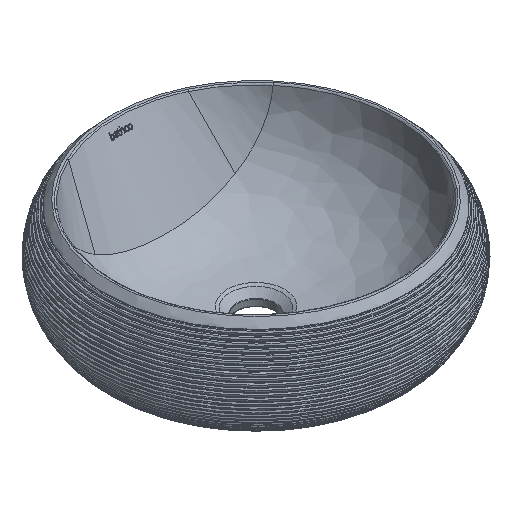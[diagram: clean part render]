
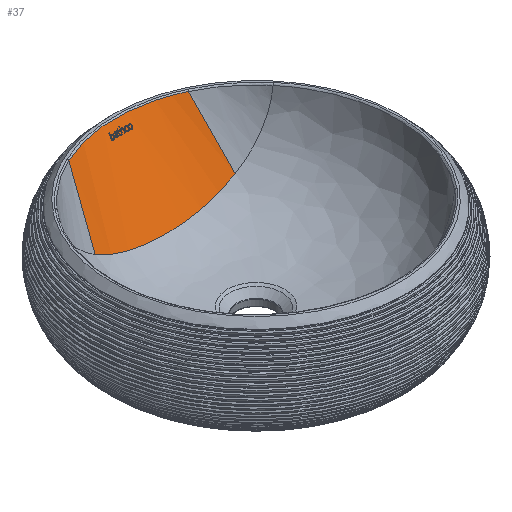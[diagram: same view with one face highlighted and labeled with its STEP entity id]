
A CAD part, isometric view. The second image highlights one B-rep face of the part: STEP entity #37.
In plain terms, the highlighted free-form (B-spline) face has degree [1, 3] with [2, 23] control points.
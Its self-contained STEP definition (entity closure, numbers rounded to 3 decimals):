
#37=ADVANCED_FACE('',(#254),#2967,.T.);
#254=FACE_OUTER_BOUND('',#471,.T.);
#471=EDGE_LOOP('',(#709,#710,#711,#712));
#709=ORIENTED_EDGE('',*,*,#1694,.F.);
#710=ORIENTED_EDGE('',*,*,#1693,.F.);
#711=ORIENTED_EDGE('',*,*,#1707,.F.);
#712=ORIENTED_EDGE('',*,*,#1719,.F.);
#1693=EDGE_CURVE('',#2680,#2681,#2180,.T.);
#1694=EDGE_CURVE('',#2681,#2702,#2181,.T.);
#1707=EDGE_CURVE('',#2703,#2680,#2192,.T.);
#1719=EDGE_CURVE('',#2702,#2703,#2545,.T.);
#2180=B_SPLINE_CURVE_WITH_KNOTS('',3,(#9135,#9136,#9137,#9138,#9139,#9140,
#9141,#9142,#9143,#9144,#9145,#9146,#9147,#9148,#9149,#9150,#9151,#9152,
#9153,#9154,#9155,#9156,#9157),.UNSPECIFIED.,.F.,.F.,(4,2,2,2,2,1,1,1,2,
2,2,2,4),(-162.977,-142.605,-122.233,-101.861,
-91.675,-86.582,-81.489,-76.396,
-71.303,-61.116,-40.744,-20.372,
0.),.UNSPECIFIED.);
#2181=B_SPLINE_CURVE_WITH_KNOTS('',1,(#9158,#9159),.UNSPECIFIED.,.F.,.F.,
(2,2),(0.,109.212),.UNSPECIFIED.);
#2192=B_SPLINE_CURVE_WITH_KNOTS('',1,(#9280,#9281),.UNSPECIFIED.,.F.,.F.,
(2,2),(-109.212,0.),.UNSPECIFIED.);
#2545=(
BOUNDED_CURVE()
B_SPLINE_CURVE(3,(#9359,#9360,#9361,#9362,#9363,#9364,#9365,#9366,#9367),
 .UNSPECIFIED.,.F.,.F.)
B_SPLINE_CURVE_WITH_KNOTS((4,1,1,1,1,1,4),(-0.468,23.028,
45.047,75.051,105.055,127.074,150.57),
 .UNSPECIFIED.)
CURVE()
GEOMETRIC_REPRESENTATION_ITEM()
RATIONAL_B_SPLINE_CURVE((1.,1.,1.,1.,1.,1.,
1.,1.,1.))
REPRESENTATION_ITEM('')
);
#2680=VERTEX_POINT('',#8924);
#2681=VERTEX_POINT('',#8925);
#2702=VERTEX_POINT('',#8946);
#2703=VERTEX_POINT('',#8947);
#2967=B_SPLINE_SURFACE_WITH_KNOTS('',1,3,((#3455,#3456,#3457,#3458,#3459,
#3460,#3461,#3462,#3463,#3464,#3465,#3466,#3467,#3468,#3469,#3470,#3471,
#3472,#3473,#3474,#3475,#3476,#3477),(#3478,#3479,#3480,#3481,#3482,#3483,
#3484,#3485,#3486,#3487,#3488,#3489,#3490,#3491,#3492,#3493,#3494,#3495,
#3496,#3497,#3498,#3499,#3500)),.UNSPECIFIED.,.F.,.F.,.F.,(2,2),(4,2,2,
2,2,1,1,1,2,2,2,2,4),(-110.934,0.),(0.,20.372,40.744,
61.116,71.303,76.396,81.489,86.582,
91.675,101.861,122.233,142.605,162.977),
 .UNSPECIFIED.);
#3455=CARTESIAN_POINT('',(22812.097,1496.328,-7716.588));
#3456=CARTESIAN_POINT('',(22817.729,1498.952,-7716.588));
#3457=CARTESIAN_POINT('',(22823.504,1501.269,-7716.588));
#3458=CARTESIAN_POINT('',(22835.272,1505.26,-7716.588));
#3459=CARTESIAN_POINT('',(22841.265,1506.935,-7716.588));
#3460=CARTESIAN_POINT('',(22853.397,1509.622,-7716.588));
#3461=CARTESIAN_POINT('',(22859.536,1510.635,-7716.588));
#3462=CARTESIAN_POINT('',(22868.801,1511.649,-7716.588));
#3463=CARTESIAN_POINT('',(22871.898,1511.903,-7716.588));
#3464=CARTESIAN_POINT('',(22876.551,1512.157,-7716.588));
#3465=CARTESIAN_POINT('',(22879.656,1512.284,-7716.588));
#3466=CARTESIAN_POINT('',(22884.315,1512.347,-7716.588));
#3467=CARTESIAN_POINT('',(22888.975,1512.284,-7716.588));
#3468=CARTESIAN_POINT('',(22892.08,1512.157,-7716.588));
#3469=CARTESIAN_POINT('',(22896.733,1511.903,-7716.588));
#3470=CARTESIAN_POINT('',(22899.83,1511.649,-7716.588));
#3471=CARTESIAN_POINT('',(22909.095,1510.635,-7716.588));
#3472=CARTESIAN_POINT('',(22915.234,1509.622,-7716.588));
#3473=CARTESIAN_POINT('',(22927.366,1506.935,-7716.588));
#3474=CARTESIAN_POINT('',(22933.359,1505.26,-7716.588));
#3475=CARTESIAN_POINT('',(22945.127,1501.269,-7716.588));
#3476=CARTESIAN_POINT('',(22950.902,1498.952,-7716.588));
#3477=CARTESIAN_POINT('',(22956.534,1496.328,-7716.588));
#3478=CARTESIAN_POINT('',(22799.577,1451.326,-7787.973));
#3479=CARTESIAN_POINT('',(22805.885,1451.326,-7791.784));
#3480=CARTESIAN_POINT('',(22812.541,1451.326,-7795.005));
#3481=CARTESIAN_POINT('',(22826.258,1451.326,-7800.391));
#3482=CARTESIAN_POINT('',(22833.319,1451.326,-7802.558));
#3483=CARTESIAN_POINT('',(22847.657,1451.326,-7805.963));
#3484=CARTESIAN_POINT('',(22854.934,1451.326,-7807.202));
#3485=CARTESIAN_POINT('',(22865.917,1451.326,-7808.433));
#3486=CARTESIAN_POINT('',(22869.59,1451.326,-7808.738));
#3487=CARTESIAN_POINT('',(22875.108,1451.326,-7809.043));
#3488=CARTESIAN_POINT('',(22878.789,1451.326,-7809.195));
#3489=CARTESIAN_POINT('',(22884.316,1451.326,-7809.271));
#3490=CARTESIAN_POINT('',(22889.842,1451.326,-7809.195));
#3491=CARTESIAN_POINT('',(22893.523,1451.326,-7809.043));
#3492=CARTESIAN_POINT('',(22899.041,1451.326,-7808.738));
#3493=CARTESIAN_POINT('',(22902.714,1451.326,-7808.433));
#3494=CARTESIAN_POINT('',(22913.697,1451.326,-7807.202));
#3495=CARTESIAN_POINT('',(22920.974,1451.326,-7805.963));
#3496=CARTESIAN_POINT('',(22935.311,1451.326,-7802.558));
#3497=CARTESIAN_POINT('',(22942.373,1451.326,-7800.391));
#3498=CARTESIAN_POINT('',(22956.09,1451.326,-7795.005));
#3499=CARTESIAN_POINT('',(22962.746,1451.326,-7791.784));
#3500=CARTESIAN_POINT('',(22969.054,1451.326,-7787.973));
#8924=CARTESIAN_POINT('',(22969.054,1451.326,-7787.973));
#8925=CARTESIAN_POINT('',(22799.577,1451.326,-7787.973));
#8946=CARTESIAN_POINT('',(22811.903,1495.629,-7717.696));
#8947=CARTESIAN_POINT('',(22956.728,1495.629,-7717.696));
#9135=CARTESIAN_POINT('',(22969.054,1451.326,-7787.973));
#9136=CARTESIAN_POINT('',(22962.746,1451.326,-7791.784));
#9137=CARTESIAN_POINT('',(22956.09,1451.326,-7795.005));
#9138=CARTESIAN_POINT('',(22942.373,1451.326,-7800.391));
#9139=CARTESIAN_POINT('',(22935.311,1451.326,-7802.558));
#9140=CARTESIAN_POINT('',(22920.974,1451.326,-7805.963));
#9141=CARTESIAN_POINT('',(22913.697,1451.326,-7807.202));
#9142=CARTESIAN_POINT('',(22902.714,1451.326,-7808.433));
#9143=CARTESIAN_POINT('',(22899.041,1451.326,-7808.738));
#9144=CARTESIAN_POINT('',(22893.523,1451.326,-7809.043));
#9145=CARTESIAN_POINT('',(22889.842,1451.326,-7809.195));
#9146=CARTESIAN_POINT('',(22884.316,1451.326,-7809.271));
#9147=CARTESIAN_POINT('',(22878.789,1451.326,-7809.195));
#9148=CARTESIAN_POINT('',(22875.108,1451.326,-7809.043));
#9149=CARTESIAN_POINT('',(22869.59,1451.326,-7808.738));
#9150=CARTESIAN_POINT('',(22865.917,1451.326,-7808.433));
#9151=CARTESIAN_POINT('',(22854.934,1451.326,-7807.202));
#9152=CARTESIAN_POINT('',(22847.657,1451.326,-7805.963));
#9153=CARTESIAN_POINT('',(22833.319,1451.326,-7802.558));
#9154=CARTESIAN_POINT('',(22826.258,1451.326,-7800.391));
#9155=CARTESIAN_POINT('',(22812.541,1451.326,-7795.005));
#9156=CARTESIAN_POINT('',(22805.885,1451.326,-7791.784));
#9157=CARTESIAN_POINT('',(22799.577,1451.326,-7787.973));
#9158=CARTESIAN_POINT('',(22799.577,1451.326,-7787.973));
#9159=CARTESIAN_POINT('',(22811.903,1495.629,-7717.696));
#9280=CARTESIAN_POINT('',(22956.728,1495.629,-7717.696));
#9281=CARTESIAN_POINT('',(22969.054,1451.326,-7787.973));
#9359=CARTESIAN_POINT('',(22811.903,1495.629,-7717.696));
#9360=CARTESIAN_POINT('',(22818.926,1498.911,-7717.65));
#9361=CARTESIAN_POINT('',(22832.963,1504.347,-7717.578));
#9362=CARTESIAN_POINT('',(22857.236,1510.234,-7717.505));
#9363=CARTESIAN_POINT('',(22884.315,1512.599,-7717.478));
#9364=CARTESIAN_POINT('',(22911.395,1510.234,-7717.505));
#9365=CARTESIAN_POINT('',(22935.668,1504.347,-7717.578));
#9366=CARTESIAN_POINT('',(22949.705,1498.911,-7717.65));
#9367=CARTESIAN_POINT('',(22956.728,1495.629,-7717.696));
